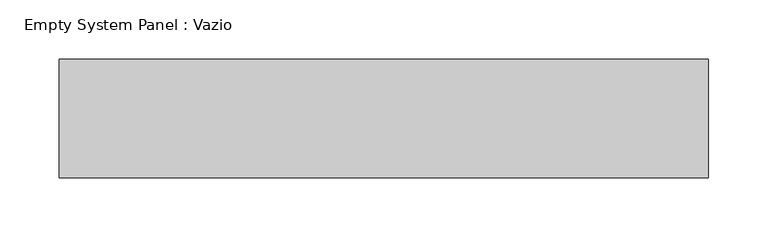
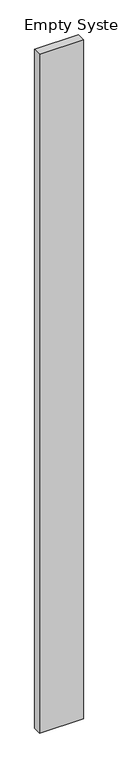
"""IFC4 building model written with IfcOpenShell, lengths in millimetres: plate geometry, Empty System Panel : Vazio."""

from ifc_helpers import new_model, si_unit, origin, origin_with_axes, place, context, project, spatial, polyline, outline, extrude, source, transform, mapped, element, save


def empty_system_panel_vazio_29520a4c(model_context):
    return source(origin(), model_context, "Body", "SweptSolid", [
        extrude(outline(polyline([(274.1901695, 50.0), (-274.1901695, 50.0), (-274.1901695, 150.0), (274.1901695, 150.0), (274.1901695, 50.0)])), origin_with_axes(), (0.0, 0.0, 1.0), 8943.4436228),
    ])


if __name__ == "__main__":
    model = new_model("IFC4")
    model_context = context("Model", 3, world=origin())
    ifc_project = project(units=[si_unit("LENGTHUNIT", "METRE", prefix="MILLI")], contexts=[model_context])
    site = spatial("IfcSite", under=ifc_project)
    building = spatial("IfcBuilding", under=site)
    placement = place(None, origin())
    empty_system_panel_vazio_shape = empty_system_panel_vazio_29520a4c(model_context)
    element("IfcPlate", 1, ObjectType="Empty System Panel : Vazio", at=placement, inside=building, context=model_context, shape_type="MappedRepresentation", body=[
        mapped(empty_system_panel_vazio_shape, transform((0.0, 0.0, 0.0), x_axis=(1.0, 0.0, 0.0), y_axis=(0.0, 1.0, 0.0), z_axis=(0.0, 0.0, 1.0))),
    ])
    save(model, "model.ifc")
